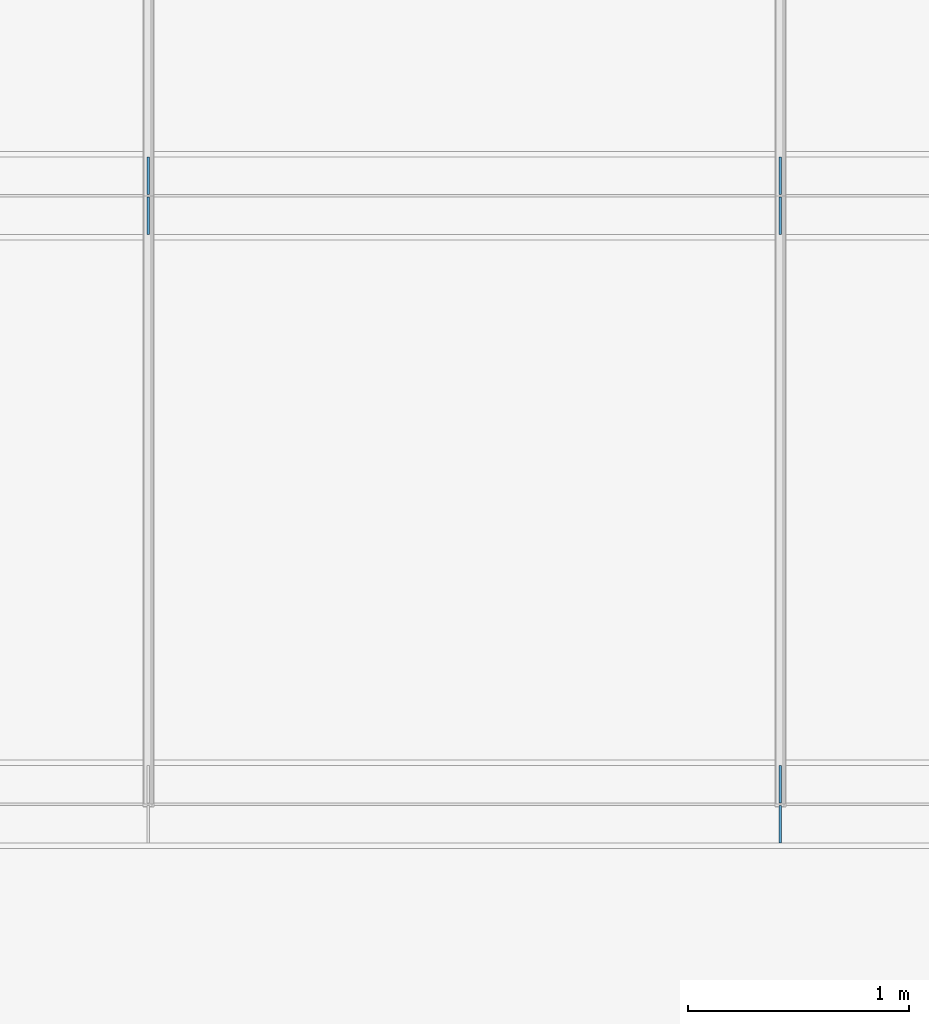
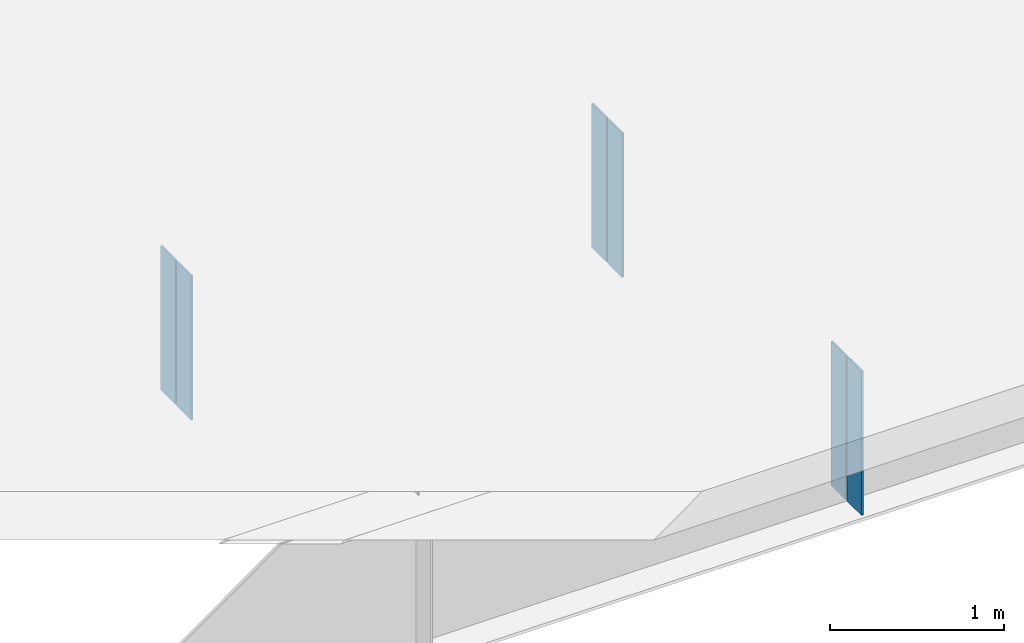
# One storey, part 6 of 12: 6 plates.
"""IFC4 building model written with IfcOpenShell, lengths in metres."""

from ifc_helpers import new_model, si_unit, frame, origin, origin_with_axes, origin_2d_with_axis, place, context, subcontext, project, spatial, rectangle, extrude, element, save


model = new_model("IFC4")

# Units and contexts
model_context = context("Model", 3, precision=1e-05, world=origin())
body_context = subcontext(model_context, "Body", "Model", "MODEL_VIEW")
ifc_project = project(units=[si_unit("LENGTHUNIT", "METRE"), si_unit("AREAUNIT", "SQUARE_METRE"), si_unit("VOLUMEUNIT", "CUBIC_METRE"), si_unit("PLANEANGLEUNIT", "RADIAN")], contexts=[model_context])

# Site, building, storey
site_placement = place(None, origin_with_axes())
site = spatial("IfcSite", under=ifc_project, at=site_placement, Name="Default Site")
building_placement = place(site_placement, origin_with_axes())
building = spatial("IfcBuilding", under=site, at=building_placement, Name="Bridge Structure")
storey_placement = place(building_placement, origin_with_axes())
storey = spatial("IfcBuildingStorey", under=building, at=storey_placement, Name="Superstructure")

# Plates
for number, where, z_axis, x_axis, name in (
    (1, (14.285, -4.0345, -0.505), (0.0, 0.0, 1.0), (1.0, 0.0, 0.0), "Intermediate Stiffener 1"),
    (2, (14.285, -4.2155000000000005, -0.505), (0.0, 0.0, 1.0), (1.0, 0.0, 0.0), "Intermediate Stiffener 1"),
    (3, (11.428, -1.2845, -0.505), (0.0, 0.0, 1.0), (1.0, 0.0, 0.0), "Intermediate Stiffener 2"),
    (4, (11.428, -1.4655, -0.505), (0.0, 0.0, 1.0), (1.0, 0.0, 0.0), "Intermediate Stiffener 2"),
    (5, (14.285, -1.2845, -0.505), (0.0, 0.0, 1.0), (1.0, 0.0, 0.0), "Intermediate Stiffener 2"),
    (6, (14.285, -1.4655, -0.505), (0.0, 0.0, 1.0), (1.0, 0.0, 0.0), "Intermediate Stiffener 2"),
):
    element("IfcPlate", number, at=place(storey_placement, frame(where, z_axis=z_axis, x_axis=x_axis)), inside=storey, Name=name, context=body_context, shape_type="SweptSolid", body=[
        extrude(rectangle(XDim=0.012, YDim=0.169, at=origin_2d_with_axis()), origin_with_axes(), (0.0, 0.0, 1.0), 1.01),
    ])

save(model, "model.ifc")
